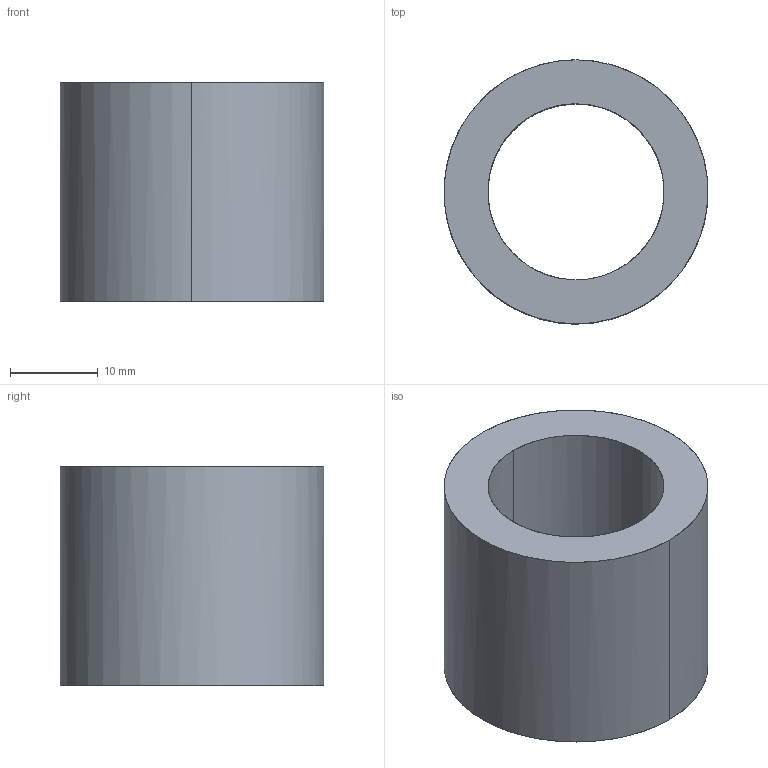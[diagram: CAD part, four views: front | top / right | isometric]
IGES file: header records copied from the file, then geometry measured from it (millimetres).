
Global section: file name: E:\UnigraphicsGraphicData\MISUMI_PRESS-PARTS\IGES\3d_swc30-25_00702_r00.igs; native system: NX V5.0; preprocessor: UGS NX IGES V5.0; author: MISUMI; date: 20110105.163254; units: millimetre
Bounding box: 30 x 30 x 25 mm (x, y, z)
Surface area: 4710.6 mm2 (no closed solid volume)
Topology: 0 solids, 0 shells, 6 faces, 64 edges, 64 vertices
Faces by surface type: bspline 6
